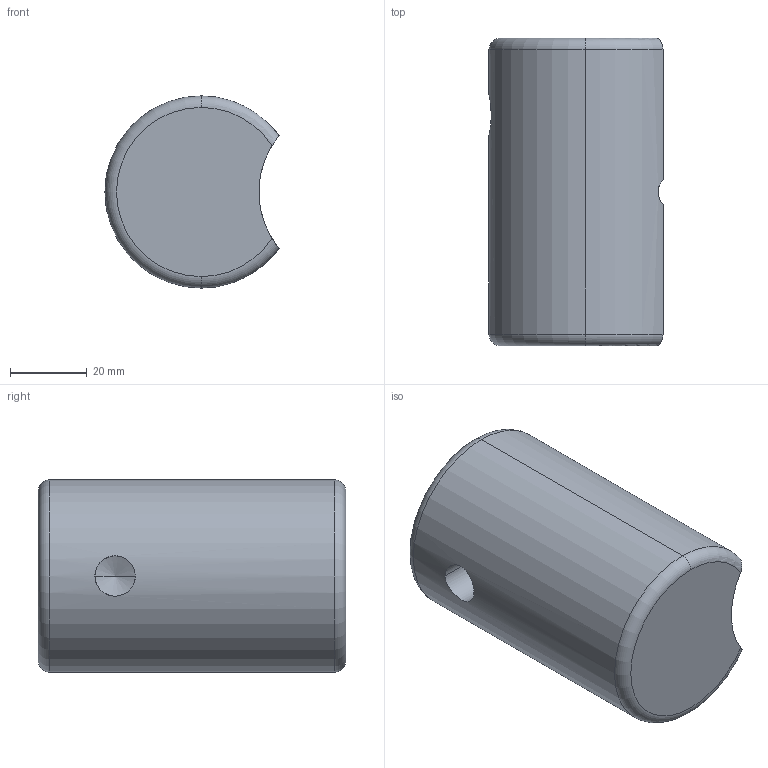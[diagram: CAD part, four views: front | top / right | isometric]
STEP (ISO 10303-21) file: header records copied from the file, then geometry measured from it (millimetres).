
FILE_DESCRIPTION(('CATIA V5 STEP Exchange'),'2;1');
FILE_NAME('C:\Users\Utente\Desktop\3D files A518\A518-3.stp','2020-04-12T13:01:14+00:00',('none'),('none'),'CATIA Version 5 Release 20 GA (IN-10)','CATIA V5 STEP AP203','none');
FILE_SCHEMA(('CONFIG_CONTROL_DESIGN'));
Length unit declared in the file: millimetre
Products named in the file (1): A518-3
Bounding box: 45.26 x 80 x 50 mm (x, y, z)
Volume: 139158.8 mm3; surface area: 16269 mm2
Topology: 1 solids, 1 shells, 19 faces, 49 edges, 31 vertices
Faces by surface type: torus 8, cylinder 7, cone 2, plane 2
Entity records: 726 total; most frequent: CARTESIAN_POINT 269, ORIENTED_EDGE 94, DIRECTION 65, EDGE_CURVE 47, AXIS2_PLACEMENT_3D 40, VERTEX_POINT 31, CIRCLE 23, EDGE_LOOP 20
